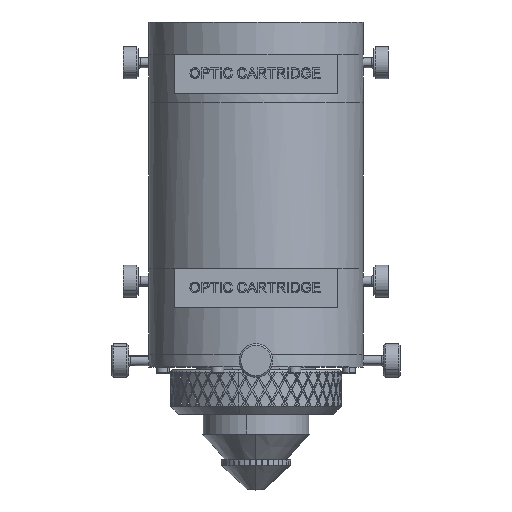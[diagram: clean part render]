
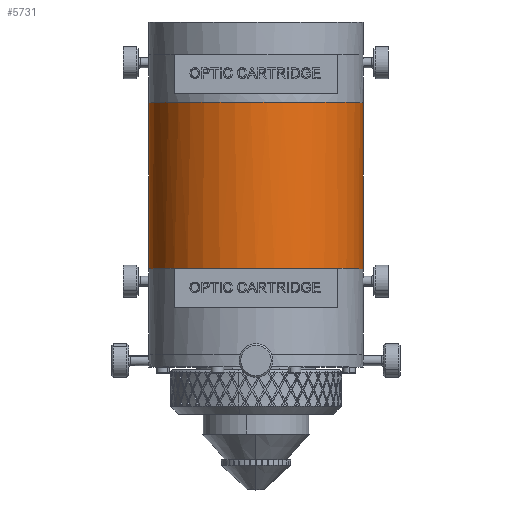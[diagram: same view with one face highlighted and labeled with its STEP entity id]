
A CAD part, top view. The second image highlights one B-rep face of the part: STEP entity #5731.
In plain terms, the highlighted cylindrical face has radius 31.75 mm (diameter 63.5 mm), a partial arc.
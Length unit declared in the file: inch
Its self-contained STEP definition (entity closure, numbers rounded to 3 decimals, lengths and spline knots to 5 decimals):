
#101 = CARTESIAN_POINT ( 'NONE',  ( 1.08484, 5.5705, 0.62641 ) ) ;
#269 = EDGE_CURVE ( 'Defeatured_0_1478+Defeatured_0_2+Defeatured_0_2+Defeatured_0_2', #48976, #54563, #17838, .T. ) ;
#315 = CARTESIAN_POINT ( 'NONE',  ( 0.32416, 5.5705, 1.20999 ) ) ;
#3287 = DIRECTION ( 'NONE',  ( 0., 1., 0. ) ) ;
#3858 = ORIENTED_EDGE ( 'NONE', *, *, #269, .F. ) ;
#4337 = CARTESIAN_POINT ( 'NONE',  ( -0.40271, 5.5705, 1.18614 ) ) ;
#4767 = CARTESIAN_POINT ( 'NONE',  ( -1.12348, 5.5705, 0.55393 ) ) ;
#4972 = CARTESIAN_POINT ( 'NONE',  ( -0.08175, 5.5705, 1.24997 ) ) ;
#5179 = CARTESIAN_POINT ( 'NONE',  ( 1.21007, 5.5705, 0.32407 ) ) ;
#5570 = DIRECTION ( 'NONE',  ( 1., 0., 0. ) ) ;
#5625 = CIRCLE ( 'NONE', #21172, 1.25 ) ;
#5731 = ADVANCED_FACE ( 'Defeatured_0_2', ( #31081 ), #60019, .T. ) ;
#7449 = ORIENTED_EDGE ( 'NONE', *, *, #42810, .F. ) ;
#8527 = EDGE_CURVE ( 'Defeatured_0_2+Defeatured_0_0+Defeatured_0_1+Defeatured_0_1', #20967, #8572, #5625, .T. ) ;
#8572 = VERTEX_POINT ( 'NONE', #10704 ) ;
#8604 = LINE ( 'NONE', #32577, #22946 ) ;
#8772 = DIRECTION ( 'NONE',  ( 0., -1., 0. ) ) ;
#8781 = CARTESIAN_POINT ( 'NONE',  ( -1.24998, 5.5705, 0. ) ) ;
#8996 = CARTESIAN_POINT ( 'NONE',  ( -1.24189, 5.5705, 0.16362 ) ) ;
#9436 = CARTESIAN_POINT ( 'NONE',  ( -1.20997, 5.5705, 0.3241 ) ) ;
#10704 = CARTESIAN_POINT ( 'NONE',  ( 1.25, 3.6335, 0. ) ) ;
#13572 = CIRCLE ( 'NONE', #55242, 1.25 ) ;
#13855 = CARTESIAN_POINT ( 'NONE',  ( -0.99382, 5.5705, 0.76248 ) ) ;
#13890 = EDGE_CURVE ( 'NONE', #8572, #54563, #39350, .T. ) ;
#14062 = CARTESIAN_POINT ( 'NONE',  ( -0.32404, 5.5705, 1.21 ) ) ;
#14495 = ORIENTED_EDGE ( 'NONE', *, *, #13890, .T. ) ;
#14712 = CARTESIAN_POINT ( 'NONE',  ( -0.16356, 5.5705, 1.24192 ) ) ;
#17838 = B_SPLINE_CURVE_WITH_KNOTS ( 'NONE', 3,
 ( #8781, #33782, #8996, #9436, #23989, #4767, #42979, #13855, #47876, #52757, #57636, #62488, #33344, #4337, #14062, #14712, #4972, #29108, #48733, #315, #29308, #19558, #53584, #24422, #58487, #24207, #58268, #101, #33995, #34206, #5179, #43798, #39119, #38905 ),
 .UNSPECIFIED., .F., .F.,
 ( 4, 2, 2, 2, 2, 2, 2, 2, 2, 2, 2, 2, 2, 2, 2, 2, 4 ),
 ( 0.5, 0.53125, 0.5625, 0.59375, 0.625, 0.65625, 0.6875, 0.71875, 0.75, 0.78125, 0.8125, 0.84375, 0.875, 0.90625, 0.9375, 0.96875, 1. ),
 .UNSPECIFIED. ) ;
#17890 = CARTESIAN_POINT ( 'NONE',  ( 0.952, 3.6335, 0.81006 ) ) ;
#18716 = DIRECTION ( 'NONE',  ( -1., 0., 0. ) ) ;
#19199 = DIRECTION ( 'NONE',  ( 1., 0., 0. ) ) ;
#19558 = CARTESIAN_POINT ( 'NONE',  ( 0.55399, 5.5705, 1.12351 ) ) ;
#20967 = VERTEX_POINT ( 'NONE', #17890 ) ;
#21172 = AXIS2_PLACEMENT_3D ( 'NONE', #57480, #33407, #19199 ) ;
#21368 = CARTESIAN_POINT ( 'NONE',  ( 1.25002, 5.5705, -0.00001 ) ) ;
#22561 = DIRECTION ( 'NONE',  ( 0., 1., 0. ) ) ;
#22946 = VECTOR ( 'NONE', #22561, 39.37008 ) ;
#23989 = CARTESIAN_POINT ( 'NONE',  ( -1.1861, 5.5705, 0.40277 ) ) ;
#24207 = CARTESIAN_POINT ( 'NONE',  ( 0.94178, 5.5705, 0.826 ) ) ;
#24422 = CARTESIAN_POINT ( 'NONE',  ( 0.76254, 5.5705, 0.99385 ) ) ;
#24720 = CARTESIAN_POINT ( 'NONE',  ( -1.24998, 5.5705, 0. ) ) ;
#24877 = CIRCLE ( 'NONE', #36131, 1.25 ) ;
#25428 = CARTESIAN_POINT ( 'NONE',  ( 0., 3.6335, 0. ) ) ;
#29108 = CARTESIAN_POINT ( 'NONE',  ( 0.08187, 5.5705, 1.24997 ) ) ;
#29308 = CARTESIAN_POINT ( 'NONE',  ( 0.40283, 5.5705, 1.18613 ) ) ;
#30999 = VECTOR ( 'NONE', #33455, 39.37008 ) ;
#31081 = FACE_OUTER_BOUND ( 'NONE', #35564, .T. ) ;
#31947 = ORIENTED_EDGE ( 'NONE', *, *, #8527, .T. ) ;
#32577 = CARTESIAN_POINT ( 'NONE',  ( -1.25, 3.6335, 0. ) ) ;
#33025 = CARTESIAN_POINT ( 'NONE',  ( 1.25, 3.6335, 0. ) ) ;
#33344 = CARTESIAN_POINT ( 'NONE',  ( -0.55388, 5.5705, 1.12352 ) ) ;
#33407 = DIRECTION ( 'NONE',  ( 0., 1., 0. ) ) ;
#33455 = DIRECTION ( 'NONE',  ( 0., 1., 0. ) ) ;
#33782 = CARTESIAN_POINT ( 'NONE',  ( -1.24995, 5.5705, 0.08181 ) ) ;
#33995 = CARTESIAN_POINT ( 'NONE',  ( 1.12359, 5.5705, 0.55391 ) ) ;
#34206 = CARTESIAN_POINT ( 'NONE',  ( 1.18621, 5.5705, 0.40274 ) ) ;
#35252 = DIRECTION ( 'NONE',  ( 0., 1., 0. ) ) ;
#35564 = EDGE_LOOP ( 'NONE', ( #7449, #53932, #39591, #31947, #14495, #3858 ) ) ;
#36131 = AXIS2_PLACEMENT_3D ( 'NONE', #57218, #8772, #18716 ) ;
#36617 = VERTEX_POINT ( 'NONE', #45982 ) ;
#38905 = CARTESIAN_POINT ( 'NONE',  ( 1.25002, 5.5705, -0.00001 ) ) ;
#39119 = CARTESIAN_POINT ( 'NONE',  ( 1.25005, 5.5705, 0.08179 ) ) ;
#39350 = LINE ( 'NONE', #33025, #30999 ) ;
#39591 = ORIENTED_EDGE ( 'NONE', *, *, #47136, .F. ) ;
#41735 = CARTESIAN_POINT ( 'NONE',  ( -0.952, 3.6335, 0.81006 ) ) ;
#42810 = EDGE_CURVE ( 'NONE', #36617, #48976, #8604, .T. ) ;
#42979 = CARTESIAN_POINT ( 'NONE',  ( -1.08473, 5.5705, 0.62643 ) ) ;
#43798 = CARTESIAN_POINT ( 'NONE',  ( 1.24199, 5.5705, 0.1636 ) ) ;
#45727 = EDGE_CURVE ( 'Defeatured_0_2+Defeatured_0_0+Defeatured_0_1+Defeatured_0_1', #36617, #53654, #13572, .T. ) ;
#45982 = CARTESIAN_POINT ( 'NONE',  ( -1.25, 3.6335, 0. ) ) ;
#47047 = DIRECTION ( 'NONE',  ( 1., 0., 0. ) ) ;
#47136 = EDGE_CURVE ( 'Defeatured_0_1+Defeatured_0_2+Defeatured_0_6+Defeatured_0_5', #20967, #53654, #24877, .T. ) ;
#47876 = CARTESIAN_POINT ( 'NONE',  ( -0.94167, 5.5705, 0.82602 ) ) ;
#48733 = CARTESIAN_POINT ( 'NONE',  ( 0.16368, 5.5705, 1.24191 ) ) ;
#48976 = VERTEX_POINT ( 'NONE', #24720 ) ;
#51708 = CARTESIAN_POINT ( 'NONE',  ( 0., 3.6335, 0. ) ) ;
#52757 = CARTESIAN_POINT ( 'NONE',  ( -0.82597, 5.5705, 0.94172 ) ) ;
#53552 = AXIS2_PLACEMENT_3D ( 'NONE', #25428, #35252, #5570 ) ;
#53584 = CARTESIAN_POINT ( 'NONE',  ( 0.62649, 5.5705, 1.08476 ) ) ;
#53654 = VERTEX_POINT ( 'NONE', #41735 ) ;
#53932 = ORIENTED_EDGE ( 'NONE', *, *, #45727, .T. ) ;
#54563 = VERTEX_POINT ( 'NONE', #21368 ) ;
#55242 = AXIS2_PLACEMENT_3D ( 'NONE', #51708, #3287, #47047 ) ;
#57218 = CARTESIAN_POINT ( 'NONE',  ( 0., 3.6335, 0. ) ) ;
#57480 = CARTESIAN_POINT ( 'NONE',  ( 0., 3.6335, 0. ) ) ;
#57636 = CARTESIAN_POINT ( 'NONE',  ( -0.76243, 5.5705, 0.99387 ) ) ;
#58268 = CARTESIAN_POINT ( 'NONE',  ( 0.99393, 5.5705, 0.76246 ) ) ;
#58487 = CARTESIAN_POINT ( 'NONE',  ( 0.82609, 5.5705, 0.9417 ) ) ;
#60019 = CYLINDRICAL_SURFACE ( 'NONE', #53552, 1.25 ) ;
#62488 = CARTESIAN_POINT ( 'NONE',  ( -0.62638, 5.5705, 1.08477 ) ) ;
